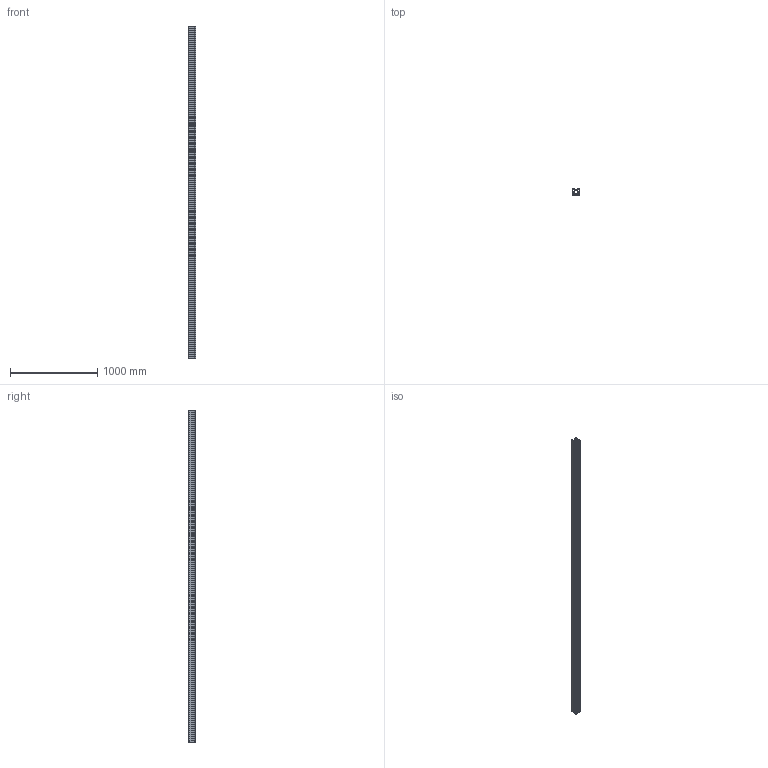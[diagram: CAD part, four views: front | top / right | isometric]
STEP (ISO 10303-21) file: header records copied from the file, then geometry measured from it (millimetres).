
FILE_DESCRIPTION (( 'STEP AP203' ), '1' );
FILE_NAME ('_-_MLF 4 3798 mm lang.step', '2005-09-01T12:46:58', ( ' ' ), ( ' ' ), 'SwSTEP 2.0', 'SolidWorks 2005187', '' );
FILE_SCHEMA (( 'CONFIG_CONTROL_DESIGN' ));
Length unit declared in the file: millimetre
Products named in the file (1): _-_MLF 4  3798 mm lang
Bounding box: 87.56 x 80 x 3798 mm (x, y, z)
Volume: 8751323.7 mm3; surface area: 4690106 mm2
Topology: 1 solids, 1 shells, 248 faces, 762 edges, 500 vertices
Faces by surface type: plane 174, cylinder 74
Entity records: 8575 total; most frequent: ORIENTED_EDGE 1524, CARTESIAN_POINT 1511, DIRECTION 1408, EDGE_CURVE 762, VECTOR 614, LINE 614, VERTEX_POINT 500, AXIS2_PLACEMENT_3D 397
